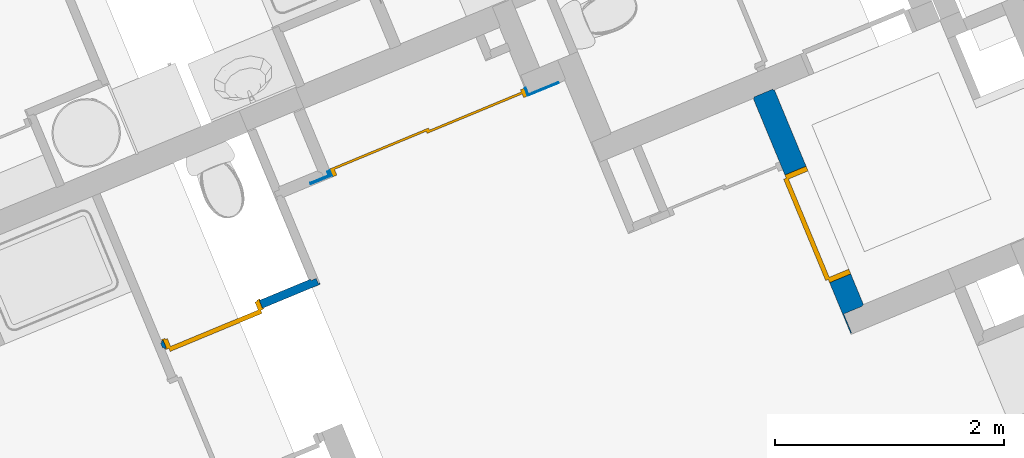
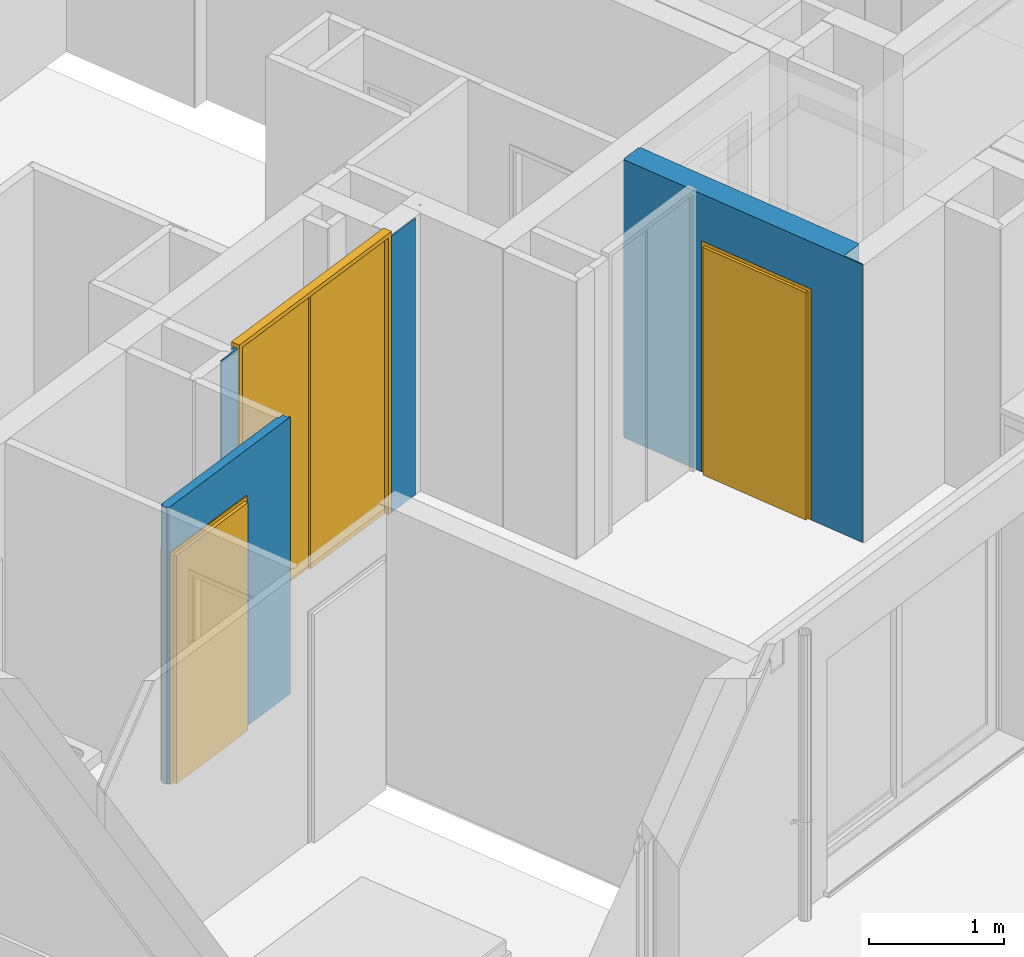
# One storey, part 9 of 119: 3 doors, 3 walls, 3 openings.
"""IFC2X3 building model written with IfcOpenShell, lengths in metres."""

from ifc_helpers import new_model, entity, si_unit, converted_unit, derived_unit, money_unit, direction, frame, origin_with_axes, place, context, subcontext, project, spatial, faceted_brep, source, transform, mapped, material, material_list, type_object, element, fill, save


model = new_model("IFC2X3")

# Units and contexts
model_context = context("Model", 3, precision=1e-05, world=origin_with_axes(), true_north=direction((0.0, 1.0)))
body_context = subcontext(model_context, "Body", "Model", "MODEL_VIEW")
ifc_project = project(units=[si_unit("LENGTHUNIT", "METRE"), si_unit("AREAUNIT", "SQUARE_METRE"), si_unit("VOLUMEUNIT", "CUBIC_METRE"), converted_unit("PLANEANGLEUNIT", "DEGREE", entity("IfcPlaneAngleMeasure", 0.0174532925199), si_unit("PLANEANGLEUNIT", "RADIAN"), dimensions=[0, 0, 0, 0, 0, 0, 0]), si_unit("SOLIDANGLEUNIT", "STERADIAN"), money_unit("EUR"), converted_unit("TIMEUNIT", "Year", entity("IfcTimeMeasure", 31556926.0), si_unit("TIMEUNIT", "SECOND"), dimensions=[0, 0, 1, 0, 0, 0, 0]), si_unit("MASSUNIT", "GRAM", prefix="KILO"), si_unit("THERMODYNAMICTEMPERATUREUNIT", "DEGREE_CELSIUS"), si_unit("LUMINOUSINTENSITYUNIT", "LUMEN"), si_unit("ENERGYUNIT", "JOULE", prefix="MEGA"), derived_unit("THERMALCONDUCTANCEUNIT", [(si_unit("POWERUNIT", "WATT"), 1), (si_unit("LENGTHUNIT", "METRE"), -1), (si_unit("THERMODYNAMICTEMPERATUREUNIT", "KELVIN"), -1)]), derived_unit("SPECIFICHEATCAPACITYUNIT", [(si_unit("ENERGYUNIT", "JOULE"), 1), (si_unit("MASSUNIT", "GRAM", prefix="KILO"), -1), (si_unit("THERMODYNAMICTEMPERATUREUNIT", "KELVIN"), -1)]), derived_unit("MASSDENSITYUNIT", [(si_unit("MASSUNIT", "GRAM", prefix="KILO"), 1), (si_unit("VOLUMEUNIT", "CUBIC_METRE"), -1)])], contexts=[model_context])

# Site, building, storey
site_placement = place(None, origin_with_axes())
site = spatial("IfcSite", under=ifc_project, at=site_placement, Name="Site", CompositionType="ELEMENT")
building_placement = place(site_placement, origin_with_axes())
building = spatial("IfcBuilding", under=site, at=building_placement, Name="Bâtiment", CompositionType="ELEMENT")
storey_placement = place(building_placement, origin_with_axes())
storey = spatial("IfcBuildingStorey", under=building, at=storey_placement, Name="Rez-de-chaussée", CompositionType="ELEMENT", Elevation=0.0)

# Wall, opening, door
ifc_material_1 = material(Name="Finition int - Plaque de plâtre")
ifc_material_2 = material(Name="Isolation - Laine de roche")
ifc_material_list_1 = material_list([ifc_material_1, ifc_material_2, ifc_material_1])
wall_type_1 = type_object("IfcWallType", Name="3 - Cloison 72mm Placostil 74", PredefinedType="USERDEFINED")
wall_1_placement = place(storey_placement, frame((-27.0916547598, -20.8463749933, 0.0), z_axis=(0.0, 0.0, 1.0), x_axis=(-0.923701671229, -0.383112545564, 0.0)))
wall_1 = element("IfcWall", 1, at=wall_1_placement, inside=storey, type_object=wall_type_1, material=ifc_material_list_1, Name="Cloison Placostil 72/48", ObjectType="PARTITIONING", context=body_context, shape_type="Brep", body=[
    faceted_brep([(0.0, -0.013, 2.5), (0.0, 0.0, 2.5), (-0.289999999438, 0.0, 2.5), (-0.289999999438, -0.009999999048, 2.5), (-0.00999999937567, -0.00999999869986, 2.5), (-0.00999999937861, -0.013, 2.5), (0.0, 0.0, 0.0), (0.0, -0.013, 0.0), (-0.289999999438, 0.0, 0.0), (-0.289999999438, -0.009999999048, 0.0), (-0.00999999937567, -0.00999999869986, 0.0), (-0.00999999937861, -0.013, 0.0)], [[[0, 1, 2, 3, 4, 5]], [[6, 1, 0, 7]], [[1, 6, 8, 2]], [[9, 3, 2, 8]], [[4, 3, 9, 10]], [[5, 4, 10, 11]], [[7, 0, 5, 11]], [[6, 7, 11, 10, 9, 8]]]),
    faceted_brep([(1.85001659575, -0.013, 0.0), (1.85001659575, -0.013, 2.5), (2.05001659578, -0.013, 2.5), (2.05001659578, -0.013, 0.0), (1.85001659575, -0.061, 2.5), (1.85001659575, -0.061, 0.0), (1.8760165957, -0.061, 2.5), (1.87601659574, -0.0259999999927, 2.5), (2.05001659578, -0.0259999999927, 2.5), (2.05001659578, -0.0259999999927, 0.0), (1.87601659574, -0.0259999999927, 0.0), (1.8760165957, -0.061, 0.0)], [[[0, 1, 2, 3]], [[4, 1, 0, 5]], [[1, 4, 6, 7, 8, 2]], [[8, 9, 3, 2]], [[5, 0, 3, 9, 10, 11]], [[4, 5, 11, 6]], [[7, 6, 11, 10]], [[8, 7, 10, 9]]]),
    faceted_brep([(0.0, -0.061, 2.5), (0.0, -0.013, 2.5), (-0.00999999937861, -0.013, 2.5), (-0.00999999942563, -0.061, 2.5), (0.0, -0.013, 0.0), (0.0, -0.061, 0.0), (-0.00999999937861, -0.013, 0.0), (-0.00999999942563, -0.061, 0.0)], [[[0, 1, 2, 3]], [[4, 1, 0, 5]], [[1, 4, 6, 2]], [[3, 2, 6, 7]], [[5, 0, 3, 7]], [[4, 5, 7, 6]]]),
    faceted_brep([(0.0, -0.0740000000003, 2.5), (0.0, -0.061, 2.5), (-0.00999999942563, -0.061, 2.5), (-0.00999999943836, -0.074, 2.5), (0.0, -0.061, 0.0), (0.0, -0.0740000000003, 0.0), (-0.00999999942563, -0.061, 0.0), (-0.00999999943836, -0.074, 0.0)], [[[0, 1, 2, 3]], [[4, 1, 0, 5]], [[1, 4, 6, 2]], [[3, 2, 6, 7]], [[5, 0, 3, 7]], [[4, 5, 7, 6]]]),
])
opening_1_placement = place(wall_1_placement, frame((0.925008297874, 0.0, 0.0), z_axis=(0.0, 0.0, 1.0), x_axis=(1.0, 0.0, 0.0)))
opening_1 = element("IfcOpeningElement", 2, at=opening_1_placement, cuts=wall_1, Name="Por-003", context=body_context, shape_type="Brep", body=[
    faceted_brep([(0.925008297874, -0.074, 0.0), (-0.925008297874, -0.074, 0.0), (-0.925008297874, 0.074, 0.0), (0.925008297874, 0.074, 0.0), (0.925008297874, -0.074, 2.54), (-0.925008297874, -0.074, 2.54), (-0.925008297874, 0.074, 2.54), (0.925008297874, 0.074, 2.54)], [[[0, 1, 2, 3]], [[0, 4, 5, 1]], [[1, 5, 6, 2]], [[3, 2, 6, 7]], [[4, 0, 3, 7]], [[5, 4, 7, 6]]]),
])
door_style_1 = type_object("IfcDoorStyle", Name="Porte int générique 2019", ConstructionType="NOTDEFINED", OperationType="USERDEFINED", ParameterTakesPrecedence=False, Sizeable=False)
shared_shape_1 = source(origin_with_axes(), body_context, "Body", "Brep", [
    faceted_brep([(-0.925008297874, -0.006, 0.0), (-0.925008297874, -0.006, 2.54), (0.925008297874, -0.006, 2.54), (0.925008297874, -0.006, 0.0), (0.885008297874, -0.006, 0.0), (0.885008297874, -0.006, 2.5), (-0.885008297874, -0.006, 2.5), (-0.885008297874, -0.006, 0.0), (-0.925008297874, -0.08, 0.0), (-0.925008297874, -0.08, 2.54), (0.925008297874, -0.08, 2.54), (0.925008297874, -0.08, 0.0), (0.885008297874, -0.08, 0.0), (0.885008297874, -0.08, 2.5), (-0.885008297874, -0.08, 2.5), (-0.885008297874, -0.08, 0.0)], [[[0, 1, 2, 3, 4, 5, 6, 7]], [[8, 9, 1, 0]], [[9, 10, 2, 1]], [[10, 11, 3, 2]], [[3, 11, 12, 4]], [[5, 4, 12, 13]], [[6, 5, 13, 14]], [[7, 6, 14, 15]], [[0, 7, 15, 8]], [[15, 14, 13, 12, 11, 10, 9, 8]]]),
    faceted_brep([(-0.885008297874, -0.006, 0.0), (0.015, -0.006, 0.0), (0.015, -0.026, 0.0), (-0.885008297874, -0.026, 0.0), (-0.885008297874, -0.006, 2.5), (0.015, -0.006, 2.5), (0.015, -0.026, 2.5), (-0.885008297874, -0.026, 2.5)], [[[0, 1, 2, 3]], [[0, 4, 5, 1]], [[1, 5, 6, 2]], [[3, 2, 6, 7]], [[4, 0, 3, 7]], [[5, 4, 7, 6]]]),
    faceted_brep([(-0.015, -0.026, 0.0), (0.885008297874, -0.026, 0.0), (0.885008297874, -0.046, 0.0), (-0.015, -0.046, 0.0), (-0.015, -0.026, 2.5), (0.885008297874, -0.026, 2.5), (0.885008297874, -0.046, 2.5), (-0.015, -0.046, 2.5)], [[[0, 1, 2, 3]], [[0, 4, 5, 1]], [[1, 5, 6, 2]], [[3, 2, 6, 7]], [[4, 0, 3, 7]], [[5, 4, 7, 6]]]),
])
door_1_placement = place(opening_1_placement, frame((0.885008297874, 0.0, 0.0), z_axis=(0.0, 0.0, 1.0), x_axis=(-1.0, 0.0, 0.0)))
door_1 = element("IfcDoor", 3, at=door_1_placement, inside=storey, type_object=door_style_1, Name="Por-003", ObjectType="DOOR", OverallHeight=2.5, OverallWidth=1.77002, context=body_context, shape_type="MappedRepresentation", body=[
    mapped(shared_shape_1, transform((0.885008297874, 0.08, 0.0))),
])
fill(opening_1, door_1)

wall_2_placement = place(storey_placement, frame((-30.2702623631, -23.0596448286, 0.0), z_axis=(0.0, 0.0, 1.0), x_axis=(0.923701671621, 0.38311254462, 0.0)))
wall_2 = element("IfcWall", 4, at=wall_2_placement, inside=storey, type_object=wall_type_1, material=ifc_material_list_1, Name="Cloison Placostil 72/48", ObjectType="PARTITIONING", context=body_context, shape_type="Brep", body=[
    faceted_brep([(0.0168138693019, 0.061, 0.0), (0.0168138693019, 0.061, 2.08), (0.926813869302, 0.061, 2.08), (0.926813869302, 0.061, 0.0), (1.41299999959, 0.061, 0.0), (1.41299999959, 0.061, 2.5), (0.0, 0.061, 2.5), (0.0, 0.061, 0.0), (0.0168138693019, 0.074, 0.0), (0.0168138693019, 0.074, 2.08), (0.926813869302, 0.074, 2.08), (0.926813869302, 0.074, 0.0), (1.41299999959, 0.074, 0.0), (1.41299999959, 0.074, 2.5), (0.0, 0.074, 2.5), (0.0, 0.074, 0.0)], [[[0, 1, 2, 3, 4, 5, 6, 7]], [[1, 0, 8, 9]], [[2, 1, 9, 10]], [[3, 2, 10, 11]], [[3, 11, 12, 4]], [[12, 13, 5, 4]], [[13, 14, 6, 5]], [[15, 7, 6, 14]], [[8, 0, 7, 15]], [[9, 8, 15, 14, 13, 12, 11, 10]]]),
    faceted_brep([(0.0168138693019, 0.013, 0.0), (0.0168138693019, 0.013, 2.08), (0.926813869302, 0.013, 2.08), (0.926813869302, 0.013, 0.0), (1.4609999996, 0.013, 0.0), (1.4609999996, 0.013, 2.5), (-0.0129999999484, 0.013, 2.5), (-0.0129999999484, 0.013, 0.0), (0.0168138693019, 0.061, 0.0), (0.0168138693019, 0.061, 2.08), (0.926813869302, 0.061, 2.08), (0.926813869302, 0.061, 0.0), (1.46099999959, 0.061, 0.0), (1.46099999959, 0.061, 2.5), (-0.0129999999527, 0.061, 2.5), (-0.0129999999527, 0.061, 0.0)], [[[0, 1, 2, 3, 4, 5, 6, 7]], [[1, 0, 8, 9]], [[2, 1, 9, 10]], [[3, 2, 10, 11]], [[3, 11, 12, 4]], [[12, 13, 5, 4]], [[13, 14, 6, 5]], [[15, 7, 6, 14]], [[8, 0, 7, 15]], [[9, 8, 15, 14, 13, 12, 11, 10]]]),
    faceted_brep([(0.0168138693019, 0.0, 0.0), (0.0168138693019, 0.0, 2.08), (0.926813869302, 0.0, 2.08), (0.926813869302, 0.0, 0.0), (1.47399999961, 0.0, 0.0), (1.47399999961, 0.0, 2.5), (0.0, 0.0, 2.5), (0.0, 0.0, 0.0), (0.0168138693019, 0.013, 0.0), (0.0168138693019, 0.013, 2.08), (0.926813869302, 0.013, 2.08), (0.926813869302, 0.013, 0.0), (1.4739999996, 0.013, 0.0), (1.4739999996, 0.013, 2.5), (0.0, 0.013, 2.5), (0.0, 0.013, 0.0)], [[[0, 1, 2, 3, 4, 5, 6, 7]], [[1, 0, 8, 9]], [[2, 1, 9, 10]], [[3, 2, 10, 11]], [[3, 11, 12, 4]], [[12, 13, 5, 4]], [[13, 14, 6, 5]], [[15, 7, 6, 14]], [[8, 0, 7, 15]], [[9, 8, 15, 14, 13, 12, 11, 10]]]),
])
opening_2_placement = place(wall_2_placement, frame((0.471813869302, 0.0, 0.0), z_axis=(0.0, 0.0, 1.0), x_axis=(1.0, 0.0, 0.0)))
opening_2 = element("IfcOpeningElement", 5, at=opening_2_placement, cuts=wall_2, Name="Porte 83x204 bois alvéolaire", context=body_context, shape_type="Brep", body=[
    faceted_brep([(-0.455, 0.074, 0.0), (0.455, 0.074, 0.0), (0.455, -0.074, 0.0), (-0.455, -0.074, 0.0), (-0.455, 0.074, 2.08), (0.455, 0.074, 2.08), (0.455, -0.074, 2.08), (-0.455, -0.074, 2.08)], [[[0, 1, 2, 3]], [[0, 4, 5, 1]], [[1, 5, 6, 2]], [[3, 2, 6, 7]], [[4, 0, 3, 7]], [[5, 4, 7, 6]]]),
])
door_style_2 = type_object("IfcDoorStyle", Name="Porte int générique 2019", ConstructionType="NOTDEFINED", OperationType="SINGLE_SWING_RIGHT", ParameterTakesPrecedence=False, Sizeable=False)
shared_shape_2 = source(origin_with_axes(), body_context, "Body", "Brep", [
    faceted_brep([(0.455, -0.006, 0.0), (0.415, -0.006, 0.0), (0.415, -0.006, 2.04), (-0.415, -0.006, 2.04), (-0.415, -0.006, 0.0), (-0.455, -0.006, 0.0), (-0.455, -0.006, 2.08), (0.455, -0.006, 2.08), (0.455, -0.08, 0.0), (0.415, -0.08, 0.0), (0.415, -0.08, 2.04), (-0.415, -0.08, 2.04), (-0.415, -0.08, 0.0), (-0.455, -0.08, 0.0), (-0.455, -0.08, 2.08), (0.455, -0.08, 2.08)], [[[0, 1, 2, 3, 4, 5, 6, 7]], [[0, 8, 9, 1]], [[1, 9, 10, 2]], [[2, 10, 11, 3]], [[3, 11, 12, 4]], [[5, 4, 12, 13]], [[14, 6, 5, 13]], [[15, 7, 6, 14]], [[8, 0, 7, 15]], [[9, 8, 15, 14, 13, 12, 11, 10]]]),
    faceted_brep([(0.465, -0.006, 0.0), (0.465, 0.004, 0.0), (0.465, 0.004, 2.09), (0.465, -0.006, 2.09), (0.435, -0.006, 0.0), (0.435, 0.004, 0.0), (0.435, 0.004, 2.06), (-0.435, 0.004, 2.06), (-0.435, 0.004, 0.0), (-0.465, 0.004, 0.0), (-0.465, 0.004, 2.09), (-0.465, -0.006, 2.09), (-0.465, -0.006, 0.0), (-0.435, -0.006, 0.0), (-0.435, -0.006, 2.06), (0.435, -0.006, 2.06)], [[[0, 1, 2, 3]], [[0, 4, 5, 1]], [[1, 5, 6, 7, 8, 9, 10, 2]], [[3, 2, 10, 11]], [[4, 0, 3, 11, 12, 13, 14, 15]], [[5, 4, 15, 6]], [[6, 15, 14, 7]], [[7, 14, 13, 8]], [[12, 9, 8, 13]], [[11, 10, 9, 12]]]),
    faceted_brep([(0.465, -0.09, 0.0), (0.465, -0.08, 0.0), (0.465, -0.08, 2.09), (0.465, -0.09, 2.09), (0.435, -0.09, 0.0), (0.435, -0.08, 0.0), (0.435, -0.08, 2.06), (-0.435, -0.08, 2.06), (-0.435, -0.08, 0.0), (-0.465, -0.08, 0.0), (-0.465, -0.08, 2.09), (-0.465, -0.09, 2.09), (-0.465, -0.09, 0.0), (-0.435, -0.09, 0.0), (-0.435, -0.09, 2.06), (0.435, -0.09, 2.06)], [[[0, 1, 2, 3]], [[0, 4, 5, 1]], [[1, 5, 6, 7, 8, 9, 10, 2]], [[3, 2, 10, 11]], [[4, 0, 3, 11, 12, 13, 14, 15]], [[5, 4, 15, 6]], [[6, 15, 14, 7]], [[7, 14, 13, 8]], [[12, 9, 8, 13]], [[11, 10, 9, 12]]]),
    faceted_brep([(0.435, 0.034, 0.0), (0.435, -0.006, 0.0), (-0.435, -0.006, 0.0), (-0.435, 0.034, 0.0), (0.435, 0.034, 2.06), (0.435, -0.006, 2.06), (-0.435, -0.006, 2.06), (-0.435, 0.034, 2.06)], [[[0, 1, 2, 3]], [[4, 5, 1, 0]], [[1, 5, 6, 2]], [[3, 2, 6, 7]], [[0, 3, 7, 4]], [[7, 6, 5, 4]]]),
])
door_2_placement = place(opening_2_placement, frame((0.415, 0.0, 0.0), z_axis=(0.0, 0.0, 1.0), x_axis=(-1.0, 0.0, 0.0)))
door_2 = element("IfcDoor", 6, at=door_2_placement, inside=storey, type_object=door_style_2, Name="Porte 83x204 bois alvéolaire", ObjectType="DOOR", OverallHeight=2.04, OverallWidth=0.83, context=body_context, shape_type="MappedRepresentation", body=[
    mapped(shared_shape_2, transform((0.415, 0.006, 0.0))),
])
fill(opening_2, door_2)

ifc_material_3 = material(Name="Finition int - Enduit plâtre")
ifc_material_4 = material(Name="Béton")
ifc_material_list_2 = material_list([ifc_material_3, ifc_material_4, ifc_material_3])
wall_type_2 = type_object("IfcWallType", Name="2 - Murs Béton 18 + Enduit 2 Faces 200", PredefinedType="USERDEFINED")
wall_3_placement = place(storey_placement, frame((-24.9486959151, -20.7875271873, 0.0), z_axis=(0.0, 0.0, 1.0), x_axis=(0.383112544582, -0.923701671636, 0.0)))
wall_3 = element("IfcWall", 7, at=wall_3_placement, inside=storey, type_object=wall_type_2, material=ifc_material_list_2, Name="M_Ext-008", ObjectType="SOLIDWALL", context=body_context, shape_type="Brep", body=[
    faceted_brep([(0.73399999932, 0.01, 2.085), (0.73399999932, 0.01, 0.0), (0.0100000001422, 0.01, 0.0), (0.0100000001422, 0.01, 2.51), (2.04391225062, 0.01, 2.51), (2.04391225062, 0.01, 0.0), (1.75399999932, 0.01, 0.0), (1.75399999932, 0.01, 2.085), (0.73399999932, 0.0, 2.085), (0.73399999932, 0.0, 0.0), (0.0100000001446, 0.0, 0.0), (0.0100000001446, 0.0, 2.51), (2.04391225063, 0.0, 2.51), (2.04391225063, 0.0, 0.0), (1.75399999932, 0.0, 0.0), (1.75399999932, 0.0, 2.085)], [[[0, 1, 2, 3, 4, 5, 6, 7]], [[1, 0, 8, 9]], [[1, 9, 10, 2]], [[3, 2, 10, 11]], [[4, 3, 11, 12]], [[12, 13, 5, 4]], [[14, 6, 5, 13]], [[7, 6, 14, 15]], [[0, 7, 15, 8]], [[15, 14, 13, 12, 11, 10, 9, 8]]]),
    faceted_brep([(0.73399999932, 0.0, 2.085), (0.73399999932, 0.0, 0.0), (1.44636302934e-10, 0.0, 0.0), (1.44636302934e-10, 0.0, 2.51), (2.05391225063, 0.0, 2.51), (2.05391225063, 0.0, 0.0), (1.75399999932, 0.0, 0.0), (1.75399999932, 0.0, 2.085), (0.73399999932, -0.18, 2.085), (0.73399999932, -0.18, 0.0), (1.88911997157e-10, -0.18, 0.0), (1.88911997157e-10, -0.18, 2.51), (2.05391225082, -0.18, 2.51), (2.05391225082, -0.18, 0.0), (1.75399999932, -0.18, 0.0), (1.75399999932, -0.18, 2.085)], [[[0, 1, 2, 3, 4, 5, 6, 7]], [[1, 0, 8, 9]], [[1, 9, 10, 2]], [[3, 2, 10, 11]], [[4, 3, 11, 12]], [[12, 13, 5, 4]], [[14, 6, 5, 13]], [[7, 6, 14, 15]], [[0, 7, 15, 8]], [[15, 14, 13, 12, 11, 10, 9, 8]]]),
    faceted_brep([(0.73399999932, -0.18, 2.085), (0.73399999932, -0.18, 0.0), (0.0100000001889, -0.18, 0.0), (0.0100000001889, -0.18, 2.51), (2.23391225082, -0.18, 2.51), (2.23391225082, -0.18, 0.0), (1.75399999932, -0.18, 0.0), (1.75399999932, -0.18, 2.085), (0.73399999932, -0.19, 2.085), (0.73399999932, -0.19, 0.0), (0.0100000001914, -0.19, 0.0), (0.0100000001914, -0.19, 2.51), (2.23391225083, -0.19, 2.51), (2.23391225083, -0.19, 0.0), (1.75399999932, -0.19, 0.0), (1.75399999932, -0.19, 2.085)], [[[0, 1, 2, 3, 4, 5, 6, 7]], [[1, 0, 8, 9]], [[1, 9, 10, 2]], [[3, 2, 10, 11]], [[4, 3, 11, 12]], [[12, 13, 5, 4]], [[14, 6, 5, 13]], [[7, 6, 14, 15]], [[0, 7, 15, 8]], [[15, 14, 13, 12, 11, 10, 9, 8]]]),
])
opening_3_placement = place(wall_3_placement, frame((1.24399999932, 0.0, 0.0), z_axis=(0.0, 0.0, 1.0), x_axis=(1.0, 0.0, 0.0)))
opening_3 = element("IfcOpeningElement", 8, at=opening_3_placement, cuts=wall_3, Name="Porte 93x204 bois blindée", context=body_context, shape_type="Brep", body=[
    faceted_brep([(-0.51, 0.2, 0.0), (0.51, 0.2, 0.0), (0.51, -0.2, 0.0), (-0.51, -0.2, 0.0), (-0.51, 0.2, 2.085), (0.51, 0.2, 2.085), (0.51, -0.2, 2.085), (-0.51, -0.2, 2.085)], [[[0, 1, 2, 3]], [[0, 4, 5, 1]], [[1, 5, 6, 2]], [[3, 2, 6, 7]], [[4, 0, 3, 7]], [[5, 4, 7, 6]]]),
])
door_style_3 = type_object("IfcDoorStyle", Name="Porte int générique 2019", ConstructionType="NOTDEFINED", OperationType="SINGLE_SWING_RIGHT", ParameterTakesPrecedence=False, Sizeable=False)
shared_shape_3 = source(origin_with_axes(), body_context, "Body", "Brep", [
    faceted_brep([(0.51, 0.0, 0.0), (0.48, 0.0, 0.0), (0.48, 0.0, 2.055), (-0.48, 0.0, 2.055), (-0.48, 0.0, 0.0), (-0.51, 0.0, 0.0), (-0.51, 0.0, 2.085), (0.51, 0.0, 2.085), (0.51, -0.2, 0.0), (0.465, -0.2, 0.0), (0.465, -0.015, 0.0), (0.48, -0.015, 0.0), (0.48, -0.015, 2.055), (-0.48, -0.015, 2.055), (-0.48, -0.015, 0.0), (-0.465, -0.015, 0.0), (-0.465, -0.2, 0.0), (-0.51, -0.2, 0.0), (-0.51, -0.2, 2.085), (0.51, -0.2, 2.085), (-0.465, -0.2, 2.04), (0.465, -0.2, 2.04), (0.465, -0.015, 2.04), (-0.465, -0.015, 2.04)], [[[0, 1, 2, 3, 4, 5, 6, 7]], [[0, 8, 9, 10, 11, 1]], [[1, 11, 12, 2]], [[2, 12, 13, 3]], [[3, 13, 14, 4]], [[5, 4, 14, 15, 16, 17]], [[18, 6, 5, 17]], [[19, 7, 6, 18]], [[8, 0, 7, 19]], [[9, 8, 19, 18, 17, 16, 20, 21]], [[10, 9, 21, 22]], [[11, 10, 22, 23, 15, 14, 13, 12]], [[23, 20, 16, 15]], [[22, 21, 20, 23]]]),
    faceted_brep([(0.48, 0.025, 0.0), (0.48, -0.015, 0.0), (-0.48, -0.015, 0.0), (-0.48, 0.025, 0.0), (0.48, 0.025, 2.055), (0.48, -0.015, 2.055), (-0.48, -0.015, 2.055), (-0.48, 0.025, 2.055)], [[[0, 1, 2, 3]], [[4, 5, 1, 0]], [[1, 5, 6, 2]], [[3, 2, 6, 7]], [[0, 3, 7, 4]], [[7, 6, 5, 4]]]),
])
door_3_placement = place(opening_3_placement, frame((0.465, 0.0, 0.0), z_axis=(0.0, 0.0, 1.0), x_axis=(-1.0, 0.0, 0.0)))
door_3 = element("IfcDoor", 9, at=door_3_placement, inside=storey, type_object=door_style_3, Name="Porte 93x204 bois blindée", ObjectType="DOOR", OverallHeight=2.04, OverallWidth=0.93, context=body_context, shape_type="MappedRepresentation", body=[
    mapped(shared_shape_3, transform((0.465, 0.19, 0.0))),
])
fill(opening_3, door_3)

save(model, "model.ifc")
